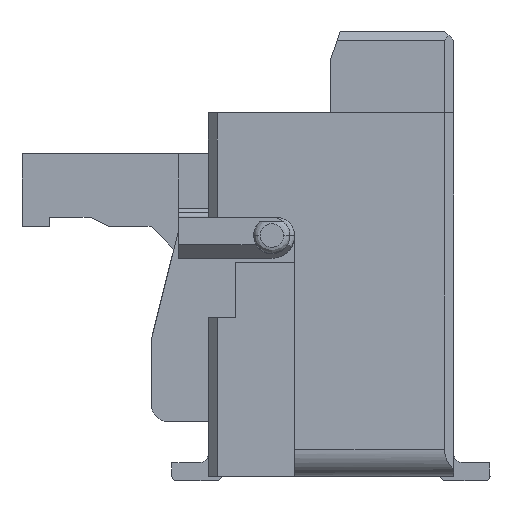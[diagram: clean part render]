
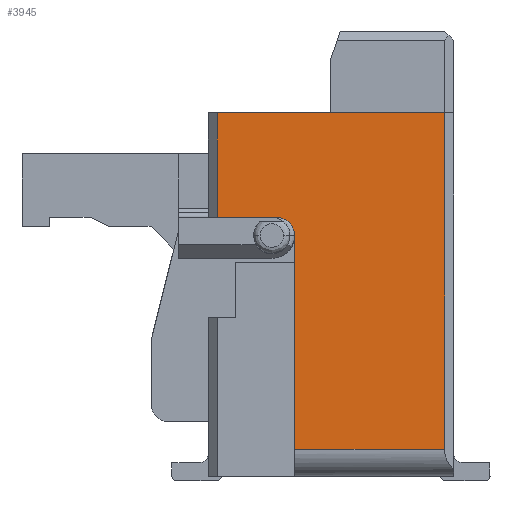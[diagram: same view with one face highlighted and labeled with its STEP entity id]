
A CAD part, left-side view. The second image highlights one B-rep face of the part: STEP entity #3945.
In plain terms, the highlighted planar face has unit normal (-1, 0, 0).
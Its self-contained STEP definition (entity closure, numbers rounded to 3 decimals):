
#265 = LINE ( 'NONE', #41261, #13784 ) ;
#1261 = CARTESIAN_POINT ( 'NONE',  ( -14.75, -0.95, 2.65 ) ) ;
#2228 = ORIENTED_EDGE ( 'NONE', *, *, #40696, .T. ) ;
#2790 = LINE ( 'NONE', #43723, #9637 ) ;
#2860 = AXIS2_PLACEMENT_3D ( 'NONE', #33235, #23913, #19251 ) ;
#3945 = ADVANCED_FACE ( 'NONE', ( #25399 ), #32394, .T. ) ;
#4237 = VERTEX_POINT ( 'NONE', #34291 ) ;
#6359 = EDGE_CURVE ( 'NONE', #4237, #13898, #2790, .T. ) ;
#6505 = EDGE_CURVE ( 'NONE', #19401, #4237, #45385, .T. ) ;
#6670 = EDGE_CURVE ( 'NONE', #37222, #24374, #265, .T. ) ;
#7629 = CARTESIAN_POINT ( 'NONE',  ( -14.75, -0.75, 2.85 ) ) ;
#8724 = VECTOR ( 'NONE', #9093, 1000. ) ;
#8761 = VECTOR ( 'NONE', #36070, 1000. ) ;
#8945 = EDGE_LOOP ( 'NONE', ( #20186, #31915, #19691, #34213, #2228, #38353, #28586 ) ) ;
#9093 = DIRECTION ( 'NONE',  ( 0., 0., -1. ) ) ;
#9637 = VECTOR ( 'NONE', #39121, 1000. ) ;
#13771 = CARTESIAN_POINT ( 'NONE',  ( -14.75, -0.95, 4. ) ) ;
#13784 = VECTOR ( 'NONE', #36603, 1000. ) ;
#13898 = VERTEX_POINT ( 'NONE', #31302 ) ;
#15239 = VERTEX_POINT ( 'NONE', #7629 ) ;
#15481 = AXIS2_PLACEMENT_3D ( 'NONE', #27755, #23064, #18408 ) ;
#17145 = VECTOR ( 'NONE', #30605, 1000. ) ;
#18408 = DIRECTION ( 'NONE',  ( 0., 0., 1. ) ) ;
#18434 = LINE ( 'NONE', #13771, #8724 ) ;
#19251 = DIRECTION ( 'NONE',  ( 0., 0., 1. ) ) ;
#19401 = VERTEX_POINT ( 'NONE', #32977 ) ;
#19519 = EDGE_CURVE ( 'NONE', #15239, #20777, #42282, .T. ) ;
#19691 = ORIENTED_EDGE ( 'NONE', *, *, #20673, .T. ) ;
#20186 = ORIENTED_EDGE ( 'NONE', *, *, #6505, .T. ) ;
#20673 = EDGE_CURVE ( 'NONE', #13898, #15239, #34873, .T. ) ;
#20777 = VERTEX_POINT ( 'NONE', #1261 ) ;
#21640 = CARTESIAN_POINT ( 'NONE',  ( -14.75, -2.6, 0.3 ) ) ;
#23064 = DIRECTION ( 'NONE',  ( -1., 0., 0. ) ) ;
#23913 = DIRECTION ( 'NONE',  ( 1., 0., 0. ) ) ;
#24374 = VERTEX_POINT ( 'NONE', #21640 ) ;
#25399 = FACE_OUTER_BOUND ( 'NONE', #8945, .T. ) ;
#25546 = DIRECTION ( 'NONE',  ( 0., -1., 0. ) ) ;
#27755 = CARTESIAN_POINT ( 'NONE',  ( -14.75, 0., 4. ) ) ;
#28586 = ORIENTED_EDGE ( 'NONE', *, *, #38957, .T. ) ;
#30182 = CARTESIAN_POINT ( 'NONE',  ( -14.75, 0., 2.85 ) ) ;
#30605 = DIRECTION ( 'NONE',  ( 0., 0., 1. ) ) ;
#31302 = CARTESIAN_POINT ( 'NONE',  ( -14.75, -0.1, 2.85 ) ) ;
#31915 = ORIENTED_EDGE ( 'NONE', *, *, #6359, .T. ) ;
#32394 = PLANE ( 'NONE',  #15481 ) ;
#32977 = CARTESIAN_POINT ( 'NONE',  ( -14.75, -2.6, 4. ) ) ;
#33235 = CARTESIAN_POINT ( 'NONE',  ( -14.75, -0.75, 2.65 ) ) ;
#34213 = ORIENTED_EDGE ( 'NONE', *, *, #19519, .T. ) ;
#34291 = CARTESIAN_POINT ( 'NONE',  ( -14.75, -0.1, 4. ) ) ;
#34873 = LINE ( 'NONE', #30182, #41510 ) ;
#35295 = CARTESIAN_POINT ( 'NONE',  ( -14.75, -2.6, 5.88 ) ) ;
#36032 = CARTESIAN_POINT ( 'NONE',  ( -14.75, -0.95, 0.3 ) ) ;
#36070 = DIRECTION ( 'NONE',  ( 0., 1., 0. ) ) ;
#36603 = DIRECTION ( 'NONE',  ( 0., -1., 0. ) ) ;
#37222 = VERTEX_POINT ( 'NONE', #36032 ) ;
#38353 = ORIENTED_EDGE ( 'NONE', *, *, #6670, .T. ) ;
#38957 = EDGE_CURVE ( 'NONE', #24374, #19401, #39943, .T. ) ;
#39121 = DIRECTION ( 'NONE',  ( 0., 0., -1. ) ) ;
#39943 = LINE ( 'NONE', #35295, #17145 ) ;
#40696 = EDGE_CURVE ( 'NONE', #20777, #37222, #18434, .T. ) ;
#40709 = CARTESIAN_POINT ( 'NONE',  ( -14.75, 0., 4. ) ) ;
#41261 = CARTESIAN_POINT ( 'NONE',  ( -14.75, 0., 0.3 ) ) ;
#41510 = VECTOR ( 'NONE', #25546, 1000. ) ;
#42282 = CIRCLE ( 'NONE', #2860, 0.2 ) ;
#43723 = CARTESIAN_POINT ( 'NONE',  ( -14.75, -0.1, 4. ) ) ;
#45385 = LINE ( 'NONE', #40709, #8761 ) ;
